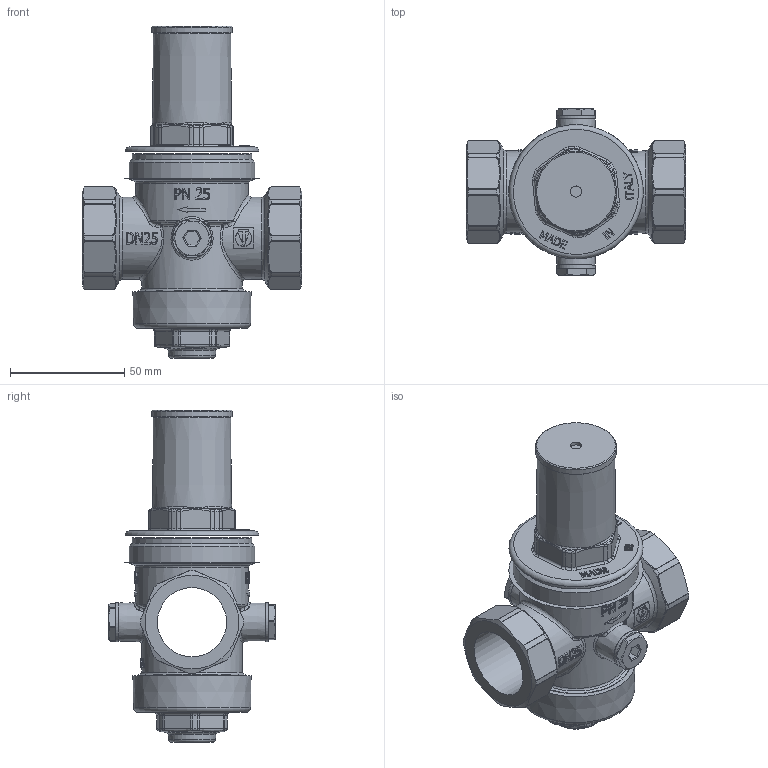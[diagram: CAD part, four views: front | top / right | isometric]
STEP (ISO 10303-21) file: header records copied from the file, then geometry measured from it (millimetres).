
FILE_DESCRIPTION(/* description */ (''),/* implementation_level */ '2;1');
FILE_NAME(/* name */ 'F:\Артём\00000\Работа удаленка\VALTEC 3D 2021-25\VT.086.NH.06.stp',/* time_stamp */ '2021-10-04T10:27:20+03:00',/* author */ ('almis'),/* organization */ (''),/* preprocessor_version */ 'ST-DEVELOPER v18',/* originating_system */ 'Autodesk Inventor 2020',/* authorisation */ '');
FILE_SCHEMA (('AUTOMOTIVE_DESIGN { 1 0 10303 214 3 1 1 }'));
Products named in the file (1): VT.086.NH.06
Bounding box: 96 x 73 x 145.5 mm (x, y, z)
Volume: 268390.9 mm3; surface area: 59787.4 mm2
Topology: 6 solids, 6 shells, 1044 faces, 2694 edges, 1709 vertices
Faces by surface type: plane 400, bspline 275, cylinder 190, torus 106, cone 69, sphere 4
Full cylindrical faces by diameter (mm): 5 x1, 11 x4, 13.157 x2, 17.1 x2, 30.3 x1, 35.5 x1, 36 x2, 44 x1, 45 x1, 48 x1, 49.5 x1, 52.5 x1, 55 x1
Entity records: 69094 total; most frequent: CARTESIAN_POINT 45245, ORIENTED_EDGE 5380, DIRECTION 4153, EDGE_CURVE 2690, VERTEX_POINT 1709, AXIS2_PLACEMENT_3D 1539, EDGE_LOOP 1101, LINE 1075
